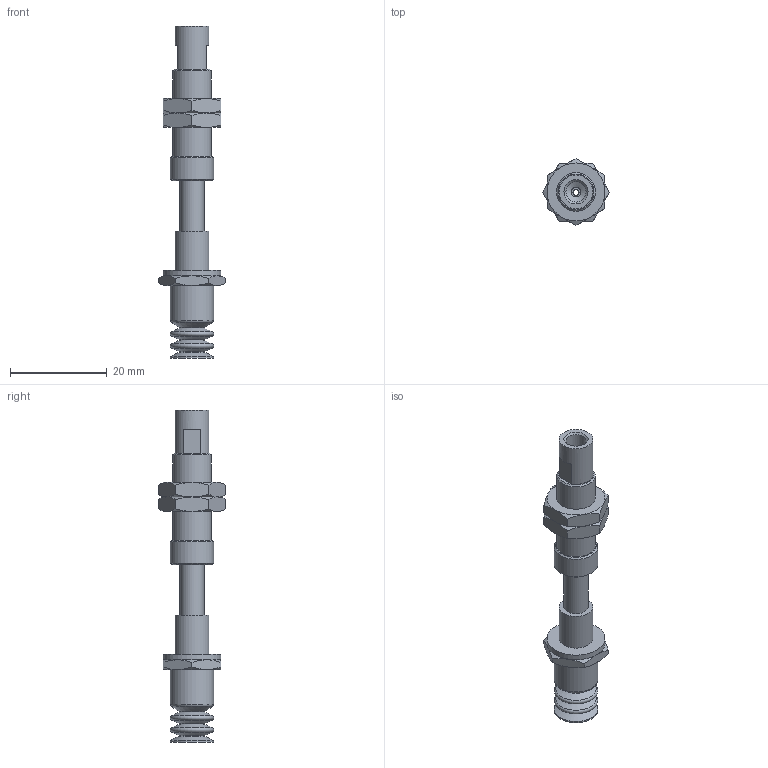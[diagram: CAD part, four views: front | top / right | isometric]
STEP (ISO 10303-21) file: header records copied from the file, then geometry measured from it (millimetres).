
FILE_DESCRIPTION(('STEP AP203'),'1');
FILE_NAME('-PE.stp','2025-04-04T02:21:36',(' '),(' '),'Spatial InterOp 3D',' ',' ');
FILE_SCHEMA(('CONFIG_CONTROL_DESIGN'));
Length unit declared in the file: millimetre
Products named in the file (7): BNABPCTS-10-10-※-PE; ZIG; BODY; NUT; BPCG-10-※; TN-PC-10-M5
Assembly tree (6 placements, depth 2):
  BNABPCTS-10-10-※-PE
    ZIG
    BODY
    NUT
    NUT
    BPCG-10-※
    TN-PC-10-M5
Bounding box: 13.86 x 13.86 x 68.7 mm (x, y, z)
Volume: 3260.7 mm3; surface area: 4523.7 mm2
Topology: 6 solids, 6 shells, 134 faces, 272 edges, 160 vertices
Faces by surface type: cone 56, plane 44, cylinder 24, torus 8, sphere 2
Full cylindrical faces by diameter (mm): 1.25 x1, 2 x1, 4 x3, 4.2 x2, 5 x7, 5.2 x1, 7 x2, 7.25 x2, 8 x1, 9 x3, 12 x1
Entity records: 3552 total; most frequent: CARTESIAN_POINT 711, DIRECTION 532, ORIENTED_EDGE 420, AXIS2_PLACEMENT_3D 253, EDGE_LOOP 210, EDGE_CURVE 210, FACE_OUTER_BOUND 168, VERTEX_POINT 152
